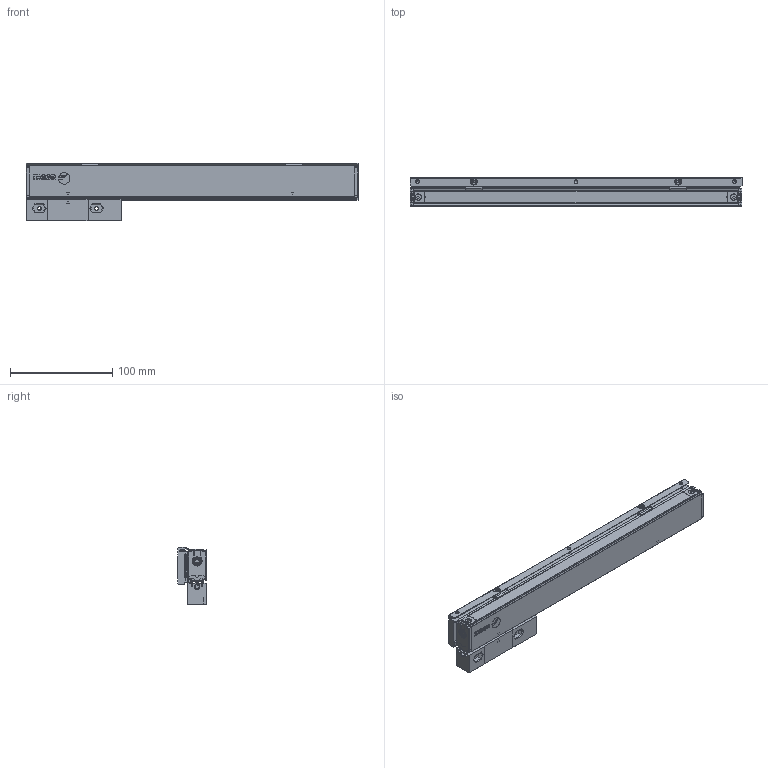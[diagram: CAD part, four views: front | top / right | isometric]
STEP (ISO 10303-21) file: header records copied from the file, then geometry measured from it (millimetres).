
FILE_DESCRIPTION(('Creo Elements/Direct Modeling STEP Export'),'2;1');
FILE_NAME('Regla SV2-220-T.stp','2015-07-07T12:56:16',(''),(''),'Creo Elements/Direct Modeling STEP processor for AP214 (Solid Model)','Creo Elements/Direct Modeling 18.1G 27-Feb-2015 (C) Parametric Technology GmbH','');
FILE_SCHEMA(('AUTOMOTIVE_DESIGN { 1 0 10303 214 1 1 1 1 }'));
Length unit declared in the file: millimetre
Products named in the file (4): CABEZA_ROSCADA_REGLA_SV2-T; SOPORTE_SV2-T; REGLA_SV2-220-T
Assembly tree (3 placements, depth 2):
  REGLA_SV2-220-T
    REGLA_SV2-220-T
    SOPORTE_SV2-T
    CABEZA_ROSCADA_REGLA_SV2-T
Bounding box: 325 x 28 x 56.2 mm (x, y, z)
Volume: 199230.6 mm3; surface area: 104682.7 mm2
Topology: 2 solids, 12 shells, 1472 faces, 4009 edges, 2599 vertices
Faces by surface type: plane 624, cylinder 584, cone 156, bspline 82, torus 18, sphere 8
Entity records: 59400 total; most frequent: CARTESIAN_POINT 17697, ORIENTED_EDGE 7982, DIRECTION 6723, EDGE_CURVE 3983, VERTEX_POINT 2599, AXIS2_PLACEMENT_3D 2287, VECTOR 2149, LINE 2149
